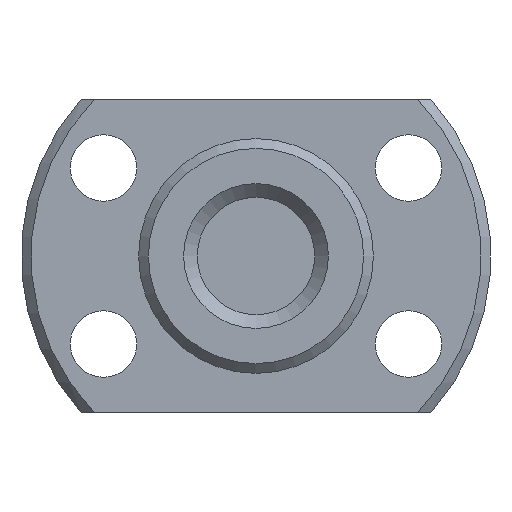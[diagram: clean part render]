
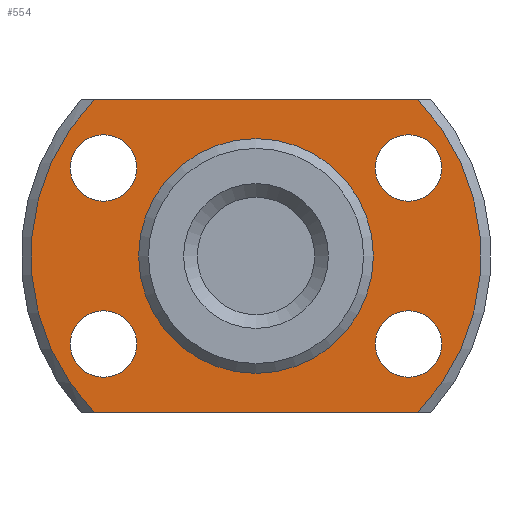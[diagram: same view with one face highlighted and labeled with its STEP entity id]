
A CAD part, left-side view. The second image highlights one B-rep face of the part: STEP entity #554.
In plain terms, the highlighted planar face has unit normal (-1, 0, 0) as drawn and (1, 0, 0) by its records, which use the part's own axes.
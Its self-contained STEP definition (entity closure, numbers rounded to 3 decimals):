
#71=LINE('',#954,#87);
#72=LINE('',#958,#88);
#87=VECTOR('',#787,1000.);
#88=VECTOR('',#790,1000.);
#146=ORIENTED_EDGE('',*,*,#252,.T.);
#147=ORIENTED_EDGE('',*,*,#253,.T.);
#148=ORIENTED_EDGE('',*,*,#254,.T.);
#149=ORIENTED_EDGE('',*,*,#255,.T.);
#150=ORIENTED_EDGE('',*,*,#256,.F.);
#151=ORIENTED_EDGE('',*,*,#257,.T.);
#152=ORIENTED_EDGE('',*,*,#258,.T.);
#153=ORIENTED_EDGE('',*,*,#259,.T.);
#154=ORIENTED_EDGE('',*,*,#260,.T.);
#252=EDGE_CURVE('',#312,#312,#358,.F.);
#253=EDGE_CURVE('',#313,#313,#359,.F.);
#254=EDGE_CURVE('',#314,#314,#360,.F.);
#255=EDGE_CURVE('',#315,#315,#361,.F.);
#256=EDGE_CURVE('',#316,#316,#362,.T.);
#257=EDGE_CURVE('',#317,#318,#363,.T.);
#258=EDGE_CURVE('',#318,#319,#71,.T.);
#259=EDGE_CURVE('',#319,#320,#364,.T.);
#260=EDGE_CURVE('',#320,#317,#72,.T.);
#312=VERTEX_POINT('',#942);
#313=VERTEX_POINT('',#944);
#314=VERTEX_POINT('',#946);
#315=VERTEX_POINT('',#948);
#316=VERTEX_POINT('',#950);
#317=VERTEX_POINT('',#952);
#318=VERTEX_POINT('',#953);
#319=VERTEX_POINT('',#955);
#320=VERTEX_POINT('',#957);
#358=CIRCLE('',#642,1.7);
#359=CIRCLE('',#643,1.7);
#360=CIRCLE('',#644,1.7);
#361=CIRCLE('',#645,1.7);
#362=CIRCLE('',#646,5.85);
#363=CIRCLE('',#647,11.5);
#364=CIRCLE('',#648,11.5);
#409=EDGE_LOOP('',(#146));
#410=EDGE_LOOP('',(#147));
#411=EDGE_LOOP('',(#148));
#412=EDGE_LOOP('',(#149));
#413=EDGE_LOOP('',(#150));
#414=EDGE_LOOP('',(#151,#152,#153,#154));
#481=FACE_BOUND('',#409,.T.);
#482=FACE_BOUND('',#410,.T.);
#483=FACE_BOUND('',#411,.T.);
#484=FACE_BOUND('',#412,.T.);
#485=FACE_BOUND('',#413,.T.);
#486=FACE_BOUND('',#414,.T.);
#531=PLANE('',#641);
#554=ADVANCED_FACE('',(#481,#482,#483,#484,#485,#486),#531,.T.);
#641=AXIS2_PLACEMENT_3D('',#940,#773,#774);
#642=AXIS2_PLACEMENT_3D('',#941,#775,#776);
#643=AXIS2_PLACEMENT_3D('',#943,#777,#778);
#644=AXIS2_PLACEMENT_3D('',#945,#779,#780);
#645=AXIS2_PLACEMENT_3D('',#947,#781,#782);
#646=AXIS2_PLACEMENT_3D('',#949,#783,#784);
#647=AXIS2_PLACEMENT_3D('',#951,#785,#786);
#648=AXIS2_PLACEMENT_3D('',#956,#788,#789);
#773=DIRECTION('',(1.,0.,0.));
#774=DIRECTION('',(0.,0.,-1.));
#775=DIRECTION('',(1.,0.,0.));
#776=DIRECTION('',(0.,0.,-1.));
#777=DIRECTION('',(1.,0.,0.));
#778=DIRECTION('',(0.,0.,-1.));
#779=DIRECTION('',(1.,0.,0.));
#780=DIRECTION('',(0.,0.,-1.));
#781=DIRECTION('',(1.,0.,0.));
#782=DIRECTION('',(0.,0.,-1.));
#783=DIRECTION('',(1.,0.,0.));
#784=DIRECTION('',(0.,0.,-1.));
#785=DIRECTION('',(1.,0.,0.));
#786=DIRECTION('',(0.,0.,-1.));
#787=DIRECTION('',(0.,-1.,0.));
#788=DIRECTION('',(1.,0.,0.));
#789=DIRECTION('',(0.,0.,-1.));
#790=DIRECTION('',(0.,1.,0.));
#940=CARTESIAN_POINT('',(6.,5.85,0.));
#941=CARTESIAN_POINT('',(6.,7.794,4.5));
#942=CARTESIAN_POINT('',(6.,7.794,2.8));
#943=CARTESIAN_POINT('',(6.,-7.794,-4.5));
#944=CARTESIAN_POINT('',(6.,-7.794,-6.2));
#945=CARTESIAN_POINT('',(6.,-7.794,4.5));
#946=CARTESIAN_POINT('',(6.,-7.794,2.8));
#947=CARTESIAN_POINT('',(6.,7.794,-4.5));
#948=CARTESIAN_POINT('',(6.,7.794,-6.2));
#949=CARTESIAN_POINT('',(6.,0.,0.));
#950=CARTESIAN_POINT('',(6.,0.,-5.85));
#951=CARTESIAN_POINT('',(6.,0.,0.));
#952=CARTESIAN_POINT('',(6.,8.261,-8.));
#953=CARTESIAN_POINT('',(6.,8.261,8.));
#954=CARTESIAN_POINT('',(6.,5.85,8.));
#955=CARTESIAN_POINT('',(6.,-8.261,8.));
#956=CARTESIAN_POINT('',(6.,0.,0.));
#957=CARTESIAN_POINT('',(6.,-8.261,-8.));
#958=CARTESIAN_POINT('',(6.,5.85,-8.));
